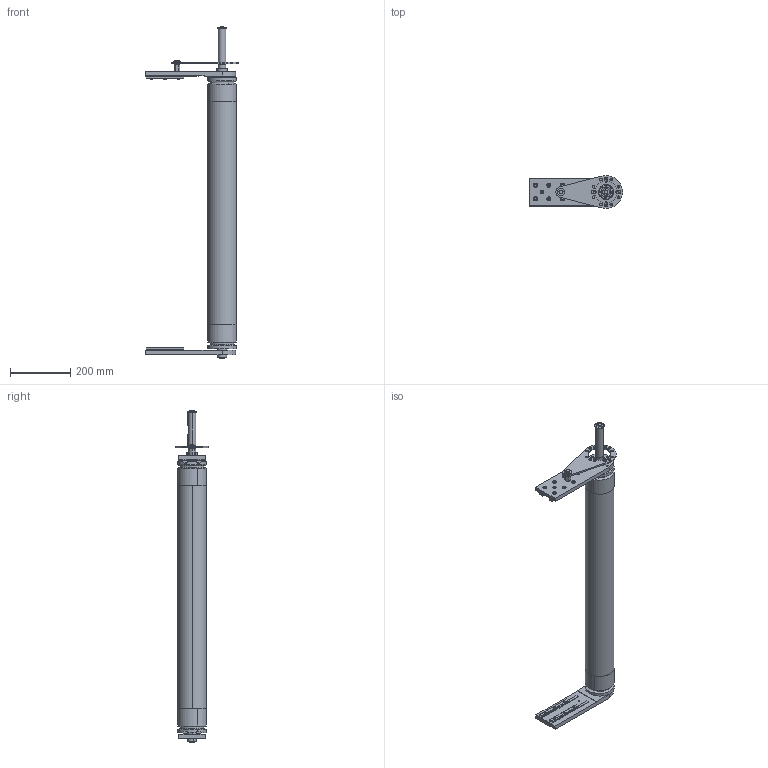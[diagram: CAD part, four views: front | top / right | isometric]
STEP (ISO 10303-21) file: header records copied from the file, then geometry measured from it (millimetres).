
FILE_DESCRIPTION (( 'STEP AP203' ), '1' );
FILE_NAME ('084.095.KDZ.63.900.STEP', '2019-07-30T08:25:44', ( '' ), ( '' ), 'SwSTEP 2.0', 'SolidWorks 2018', '' );
FILE_SCHEMA (( 'CONFIG_CONTROL_DESIGN' ));
Length unit declared in the file: millimetre
Products named in the file (20): 084.808.005-1; 084.301.000 VITI ALUSIC_084.301.003; 084.000.A027; 084.808.003_084.808.003; VITI TE UNI 5739_M8x16 UNI 5739; 084.802.019_084.802.019; 084.095.KDZ.63.900; 449.014.106; CHIAVETTE_A 8x7x40 UNI 6604-69; DADO ESAGONALE AUTOBLOCCANTE RIBASSATO M30-UNI 7474; 084.802.027; RONDELLE FASCIA LARGA UNI 6593_8.4x24 UNI 6593; 084.808.002_084.808.002; 084.302.060; 084.802.034_084.802.034; GRANI A PUNTA PIATTA UNI 5923_M8x25 UNI 5923; 084.812.025.900_Default<A macchina>; CHIAVETTE_A 8x7x50 UNI 6604-69; 084.812.022.900_Default<A macchina>; RONDELLE FASCIA LARGA UNI 6593_8.4x32 UNI 6593
Assembly tree (37 placements, depth 3):
  084.095.KDZ.63.900
    449.014.106  x2
    084.802.034_084.802.034
    DADO ESAGONALE AUTOBLOCCANTE RIBASSATO M30-UNI 7474  x2
    VITI TE UNI 5739_M8x16 UNI 5739
    RONDELLE FASCIA LARGA UNI 6593_8.4x32 UNI 6593
    084.000.A027
      084.802.027
      084.808.005-1
      GRANI A PUNTA PIATTA UNI 5923_M8x25 UNI 5923
      RONDELLE FASCIA LARGA UNI 6593_8.4x24 UNI 6593
      VITI TE UNI 5739_M8x16 UNI 5739
    084.812.025.900_Default<A macchina>
    084.812.022.900_Default<A macchina>
    084.808.002_084.808.002
    084.802.019_084.802.019
    084.808.003_084.808.003
    084.302.060  x4
    CHIAVETTE_A 8x7x50 UNI 6604-69
    CHIAVETTE_A 8x7x40 UNI 6604-69  x2
    084.301.000 VITI ALUSIC_084.301.003  x12
Bounding box: 310 x 110 x 1105.33 mm (x, y, z)
Volume: 3889212.8 mm3; surface area: 1169310.8 mm2
Topology: 41 solids, 42 shells, 915 faces, 2233 edges, 1436 vertices
Faces by surface type: plane 382, cylinder 330, cone 94, bspline 56, torus 44, sphere 9
Entity records: 22300 total; most frequent: CARTESIAN_POINT 4652, DIRECTION 3209, ORIENTED_EDGE 3068, EDGE_CURVE 1534, AXIS2_PLACEMENT_3D 1253, VERTEX_POINT 996, EDGE_LOOP 742, LINE 703
